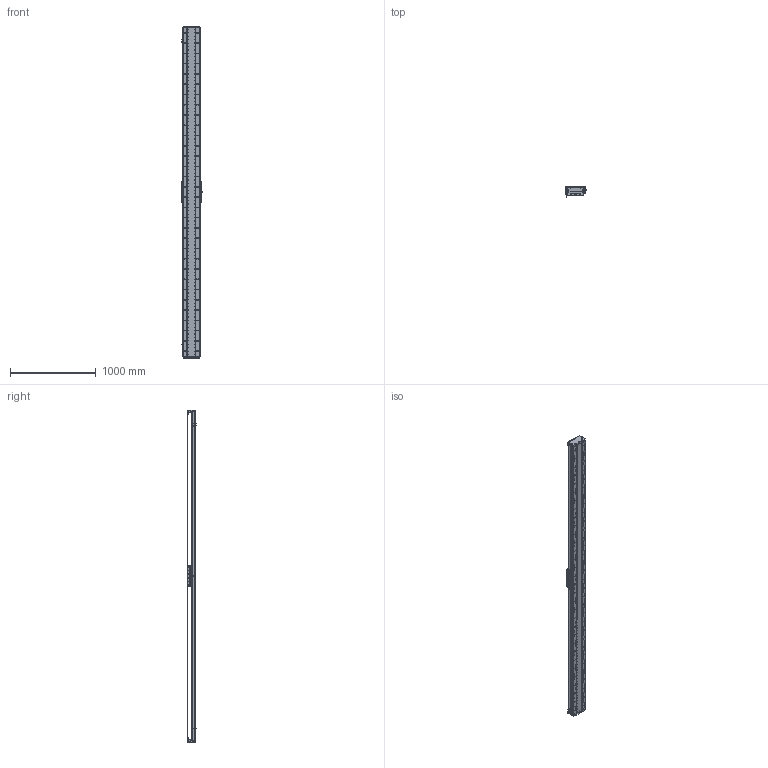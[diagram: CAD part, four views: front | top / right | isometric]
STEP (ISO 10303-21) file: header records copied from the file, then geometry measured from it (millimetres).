
FILE_DESCRIPTION (( 'STEP AP203' ), '1' );
FILE_NAME ('DA-C195-C3-T3540-C010-0.2 眻盄萇儂.STEP', '2025-08-15T01:25:29', ( '' ), ( '' ), 'SwSTEP 2.0', 'SolidWorks 2019', '' );
FILE_SCHEMA (( 'CONFIG_CONTROL_DESIGN' ));
Length unit declared in the file: millimetre
Products named in the file (15): MS200 棠掑喜S315-T240; IU-CU195-L 菁釱絳寢; DA-C195-GD-DB-H-00 傷啣; PM-T45ㄗ侂狟ㄘ; IU-CU195-L-00 菁釱(L3840); DA195詩湍菜輸; DA-C195-C3-T3540-C010-0.2 眻盄萇儂; 葩璃 DA95-GT-T-00; LMT黍杅芛; DA165-GYP-00 光电感应片(默认); DA95-HXJ-00 遣喳砎蝶; DA195詩湍裔啣; CU195-C3賑輸-俋楷; DA195詩湍嶺輸; DA195詩湍郪璃
Assembly tree (29 placements, depth 3):
  DA-C195-C3-T3540-C010-0.2 眻盄萇儂
    DA195詩湍郪璃
      DA195詩湍菜輸  x2
      DA195詩湍裔啣
      DA195詩湍嶺輸  x2
      DA95-HXJ-00 遣喳砎蝶  x8
      DA-C195-GD-DB-H-00 傷啣  x2
    IU-CU195-L 菁釱絳寢
      IU-CU195-L-00 菁釱(L3840)
      葩璃 DA95-GT-T-00  x4
    LMT黍杅芛
    MS200 棠掑喜S315-T240
    PM-T45ㄗ侂狟ㄘ  x3
    DA165-GYP-00 光电感应片(默认)
    CU195-C3賑輸-俋楷
Bounding box: 248 x 115.45 x 3880 mm (x, y, z)
Volume: 21773640.3 mm3; surface area: 6486994.2 mm2
Topology: 86 solids, 118 shells, 4844 faces, 14151 edges, 8993 vertices
Faces by surface type: cylinder 2858, plane 1384, cone 514, torus 52, sphere 36
Entity records: 165977 total; most frequent: CARTESIAN_POINT 48212, ORIENTED_EDGE 25218, DIRECTION 23342, EDGE_CURVE 12609, AXIS2_PLACEMENT_3D 8797, VERTEX_POINT 8195, VECTOR 5748, LINE 5748
